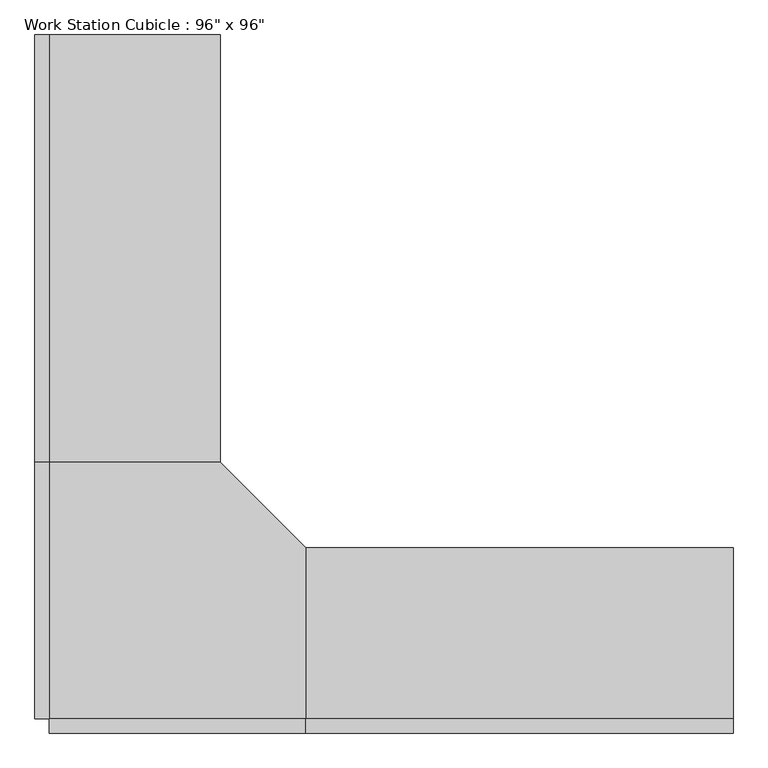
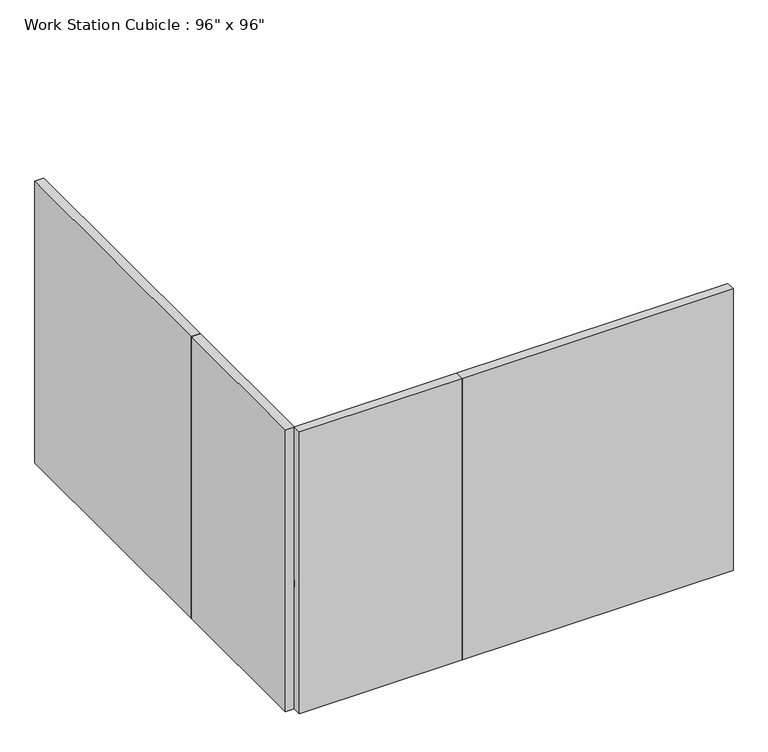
"""IFC4 building model written with IfcOpenShell, lengths in millimetres: furniture geometry."""

import ifcopenshell
import ifcopenshell.guid

model = None  # the IFC model being written
_history = None  # IfcOwnerHistory: only IFC2X3 demands one
_inside = {}  # id of a spatial element -> (the spatial element, [elements in it])
_under = {}  # id of a project, library or spatial element -> (it, [spatial elements below it])
_declared = {}  # id of a project -> (the project, [libraries it declares])
_typed = {}  # id of a type object -> (the type object, [elements of that type])
_made_of = {}  # id of a material, layer set ... -> (it, [elements and type objects made of it])


def new_model(schema):
    """Start an empty IFC model of exactly this schema.

    Asked for "IFC4X3", IfcOpenShell would pick the latest addendum, in which some entities
    have other attributes; the version numbers below select the first issue.
    IFC2X3 requires an IfcOwnerHistory on every rooted entity: one is made here for all.
    """
    global model, _history
    if schema == "IFC4X3":
        model = ifcopenshell.file(schema_version=(4, 3, 0, 0))
    else:
        model = ifcopenshell.file(schema=schema)
    _inside.clear()
    _under.clear()
    _declared.clear()
    _typed.clear()
    _made_of.clear()
    _history = None
    if model.schema == "IFC2X3":
        org = make("IfcOrganization", Name="unknown")
        user = make(
            "IfcPersonAndOrganization",
            ThePerson=make("IfcPerson", FamilyName="unknown"),
            TheOrganization=org,
        )
        app = make(
            "IfcApplication",
            ApplicationDeveloper=org,
            Version="unknown",
            ApplicationFullName="unknown",
            ApplicationIdentifier="unknown",
        )
        _history = make(
            "IfcOwnerHistory",
            OwningUser=user,
            OwningApplication=app,
            ChangeAction="ADDED",
            CreationDate=0,
        )
    return model


def make(cls, **values):
    """One entity of the class cls with the attributes given. An attribute that is None is left unset."""
    return model.create_entity(
        cls, **{name: value for name, value in values.items() if value is not None}
    )


def rooted(cls, **values):
    """An entity with a GlobalId (a new one), such as an element, a storey or a relation."""
    return make(cls, GlobalId=ifcopenshell.guid.new(), OwnerHistory=_history, **values)


def si_unit(unit_type, name, prefix=None):
    """IfcSIUnit, for example si_unit("LENGTHUNIT", "METRE", prefix="MILLI")."""
    return make("IfcSIUnit", UnitType=unit_type, Prefix=prefix, Name=name)


def assignment(units):
    """IfcUnitAssignment: the units of a project."""
    return None if units is None else make("IfcUnitAssignment", Units=units)


def point(xyz):
    """IfcCartesianPoint."""
    return None if xyz is None else make("IfcCartesianPoint", Coordinates=xyz)


def direction(xyz):
    """IfcDirection."""
    return None if xyz is None else make("IfcDirection", DirectionRatios=xyz)


def frame(location, z_axis=None, x_axis=None):
    """IfcAxis2Placement3D, a coordinate frame: its origin and axes. An axis left out is left unset."""
    return make(
        "IfcAxis2Placement3D",
        Location=point(location),
        Axis=direction(z_axis),
        RefDirection=direction(x_axis),
    )


def origin():
    """The frame at (0, 0, 0) with its axes left unset."""
    return frame((0.0, 0.0, 0.0))


def origin_with_axes():
    """The frame at (0, 0, 0) with the z axis (0, 0, 1) and the x axis (1, 0, 0) written out."""
    return frame((0.0, 0.0, 0.0), z_axis=(0.0, 0.0, 1.0), x_axis=(1.0, 0.0, 0.0))


def place(relative_to, where):
    """IfcLocalPlacement: puts the frame where relative to a parent placement (None: the world)."""
    return make(
        "IfcLocalPlacement", PlacementRelTo=relative_to, RelativePlacement=where
    )


def context(
    kind, dimensions, precision=None, world=None, true_north=None, identifier=None
):
    """IfcGeometricRepresentationContext, for example the 3D "Model" context."""
    return make(
        "IfcGeometricRepresentationContext",
        ContextIdentifier=identifier,
        ContextType=kind,
        CoordinateSpaceDimension=dimensions,
        Precision=precision,
        WorldCoordinateSystem=world,
        TrueNorth=true_north,
    )


def project(units=None, contexts=None):
    """IfcProject with its units and contexts."""
    return rooted(
        "IfcProject",
        Name="project",
        RepresentationContexts=contexts,
        UnitsInContext=assignment(units),
    )


def spatial(cls, under=None, at=None, **own):
    """A site, building, storey or space (cls), placed at a placement, below another one or the project."""
    s = rooted(cls, ObjectPlacement=at, **own)
    if under is not None:
        _under.setdefault(under.id(), (under, []))[1].append(s)
    return s


def polyline(points):
    """IfcPolyline through the points."""
    return make("IfcPolyline", Points=[point(p) for p in points])


def outline(outer, holes=None, kind="AREA"):
    """IfcArbitraryClosedProfileDef: a profile drawn as a closed curve; with holes, ...WithVoids."""
    if holes is None:
        return make("IfcArbitraryClosedProfileDef", ProfileType=kind, OuterCurve=outer)
    return make(
        "IfcArbitraryProfileDefWithVoids",
        ProfileType=kind,
        OuterCurve=outer,
        InnerCurves=holes,
    )


def extrude(swept, where, along, depth):
    """IfcExtrudedAreaSolid: the profile swept, set in the frame where, extruded along a direction by depth."""
    return make(
        "IfcExtrudedAreaSolid",
        SweptArea=swept,
        Position=where,
        ExtrudedDirection=direction(along),
        Depth=depth,
    )


def shape(context_of_items, identifier, shape_type, items):
    """IfcShapeRepresentation: the items that make up one representation, for example the "Body"."""
    return make(
        "IfcShapeRepresentation",
        ContextOfItems=context_of_items,
        RepresentationIdentifier=identifier,
        RepresentationType=shape_type,
        Items=items,
    )


def source(mapping_origin, context_of_items, identifier, shape_type, items):
    """IfcRepresentationMap: a shape defined once, which mapped items show again and again."""
    return make(
        "IfcRepresentationMap",
        MappingOrigin=mapping_origin,
        MappedRepresentation=shape(context_of_items, identifier, shape_type, items),
    )


def transform(
    local_origin,
    x_axis=None,
    y_axis=None,
    z_axis=None,
    scale=None,
    scale2=None,
    scale3=None,
    uniform=True,
):
    """IfcCartesianTransformationOperator3D, or its non-uniform kind. x_axis, y_axis, z_axis: its Axis1, 2, 3."""
    if uniform:
        return make(
            "IfcCartesianTransformationOperator3D",
            Axis1=direction(x_axis),
            Axis2=direction(y_axis),
            LocalOrigin=point(local_origin),
            Scale=scale,
            Axis3=direction(z_axis),
        )
    return make(
        "IfcCartesianTransformationOperator3DnonUniform",
        Axis1=direction(x_axis),
        Axis2=direction(y_axis),
        LocalOrigin=point(local_origin),
        Scale=scale,
        Axis3=direction(z_axis),
        Scale2=scale2,
        Scale3=scale3,
    )


def mapped(mapping_source, mapping_target):
    """IfcMappedItem: shows the shape of a source again, moved by a transform."""
    return make(
        "IfcMappedItem", MappingSource=mapping_source, MappingTarget=mapping_target
    )


def made_of(thing, what):
    """Note that an element or type object is made of a material, layer set ...; save() writes the relation."""
    if what is not None:
        _made_of.setdefault(what.id(), (what, []))[1].append(thing)
    return thing


def element(
    cls,
    number,
    at=None,
    inside=None,
    cuts=None,
    type_object=None,
    material=None,
    context=None,
    identifier="Body",
    shape_type=None,
    held_by="IfcProductDefinitionShape",
    body=None,
    shapes=None,
    **own,
):
    """One element of the class cls, such as IfcWall. Its Tag is "e" and its number.

    at: its placement. inside: the storey or other place that contains it. cuts: it is an
    opening in that element (IfcRelVoidsElement). A single representation is given by context,
    identifier, shape_type and body (its items); several are given by shapes. held_by: the class
    of the entity that holds the representations. save() writes the other relations.
    """
    e = rooted(cls, Tag="e%d" % number, ObjectPlacement=at, **own)
    if body is not None:
        shapes = [shape(context, identifier, shape_type, body)]
    if shapes is not None:
        e.Representation = make(held_by, Representations=shapes)
    if inside is not None:
        _inside.setdefault(inside.id(), (inside, []))[1].append(e)
    if cuts is not None:
        rooted(
            "IfcRelVoidsElement", RelatingBuildingElement=cuts, RelatedOpeningElement=e
        )
    if type_object is not None:
        _typed.setdefault(type_object.id(), (type_object, []))[1].append(e)
    return made_of(e, material)


def aggregate(whole, parts):
    """IfcRelAggregates: a whole, such as a stair, and the parts it consists of."""
    return rooted("IfcRelAggregates", RelatingObject=whole, RelatedObjects=parts)


def save(model, path):
    """Write the relations noted so far, then the file.

    IfcRelAggregates (storeys below a building ...), IfcRelContainedInSpatialStructure (elements
    in a storey), IfcRelDefinesByType, IfcRelAssociatesMaterial and IfcRelDeclares: one each for
    every whole, place, type object, material and project.
    """
    for whole, parts in _under.values():
        aggregate(whole, parts)
    for where, things in _inside.values():
        rooted(
            "IfcRelContainedInSpatialStructure",
            RelatedElements=things,
            RelatingStructure=where,
        )
    for kind, things in _typed.values():
        rooted("IfcRelDefinesByType", RelatedObjects=things, RelatingType=kind)
    for what, things in _made_of.values():
        rooted("IfcRelAssociatesMaterial", RelatedObjects=things, RelatingMaterial=what)
    for by, libraries in _declared.values():
        rooted("IfcRelDeclares", RelatingContext=by, RelatedDefinitions=libraries)
    model.write(path)


def furniture_7b33082a(model_context):
    return source(origin(), model_context, "Body", "SweptSolid", [
        extrude(outline(polyline([(-80.9317522, 545.8230076), (-80.9317522, 1460.2230076), (528.6682478, 1460.2230076), (833.4682478, 1155.4230076), (833.4682478, 545.8230076), (-80.9317522, 545.8230076)])), frame((0.0, 0.0, 723.9), z_axis=(0.0, 0.0, 1.0), x_axis=(1.0, 0.0, 0.0)), (0.0, 0.0, 1.0), 38.1),
        extrude(outline(polyline([(528.6682478, 2984.2230076), (528.6682478, 1460.2230076), (-80.9317522, 1460.2230076), (-80.9317522, 2984.2230076), (528.6682478, 2984.2230076)])), frame((0.0, 0.0, 723.9), z_axis=(0.0, 0.0, 1.0), x_axis=(1.0, 0.0, 0.0)), (0.0, 0.0, 1.0), 38.1),
        extrude(outline(polyline([(2357.4682478, 1155.4230076), (2357.4682478, 545.8230076), (833.4682478, 545.8230076), (833.4682478, 1155.4230076), (2357.4682478, 1155.4230076)])), frame((0.0, 0.0, 723.9), z_axis=(0.0, 0.0, 1.0), x_axis=(1.0, 0.0, 0.0)), (0.0, 0.0, 1.0), 38.1),
        extrude(outline(polyline([(2357.4682478, 545.8230076), (2357.4682478, 495.0230076), (833.4682478, 495.0230076), (833.4682478, 545.8230076), (2357.4682478, 545.8230076)])), origin_with_axes(), (0.0, 0.0, 1.0), 1676.4),
        extrude(outline(polyline([(833.4682478, 545.8230076), (833.4682478, 495.0230076), (-80.9317522, 495.0230076), (-80.9317522, 545.8230076), (833.4682478, 545.8230076)])), origin_with_axes(), (0.0, 0.0, 1.0), 1676.4),
        extrude(outline(polyline([(-80.9317522, 1460.2230076), (-80.9317522, 545.8230076), (-131.7317522, 545.8230076), (-131.7317522, 1460.2230076), (-80.9317522, 1460.2230076)])), origin_with_axes(), (0.0, 0.0, 1.0), 1676.4),
        extrude(outline(polyline([(-80.9317522, 2984.2230076), (-80.9317522, 1460.2230076), (-131.7317522, 1460.2230076), (-131.7317522, 2984.2230076), (-80.9317522, 2984.2230076)])), origin_with_axes(), (0.0, 0.0, 1.0), 1676.4),
    ])


if __name__ == "__main__":
    model = new_model("IFC4")
    model_context = context("Model", 3, world=origin())
    ifc_project = project(units=[si_unit("LENGTHUNIT", "METRE", prefix="MILLI")], contexts=[model_context])
    site = spatial("IfcSite", under=ifc_project)
    building = spatial("IfcBuilding", under=site)
    placement = place(None, origin())
    furniture_shape = furniture_7b33082a(model_context)
    element("IfcFurniture", 1, ObjectType="Work Station Cubicle : 96\" x 96\"", at=placement, inside=building, context=model_context, shape_type="MappedRepresentation", body=[
        mapped(furniture_shape, transform((0.0, 0.0, 0.0), x_axis=(1.0, 0.0, 0.0), y_axis=(0.0, 1.0, 0.0), z_axis=(0.0, 0.0, 1.0))),
    ])
    save(model, "model.ifc")
